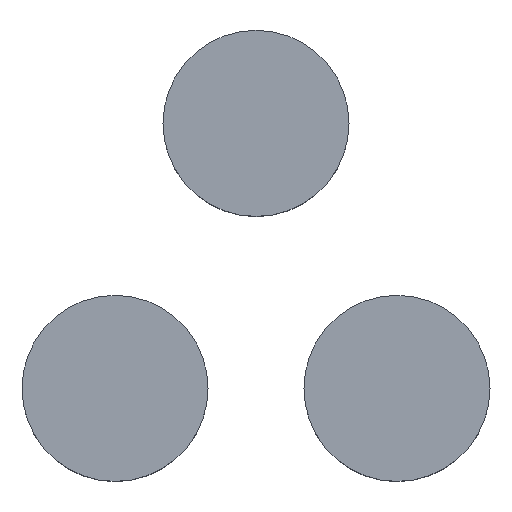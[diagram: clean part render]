
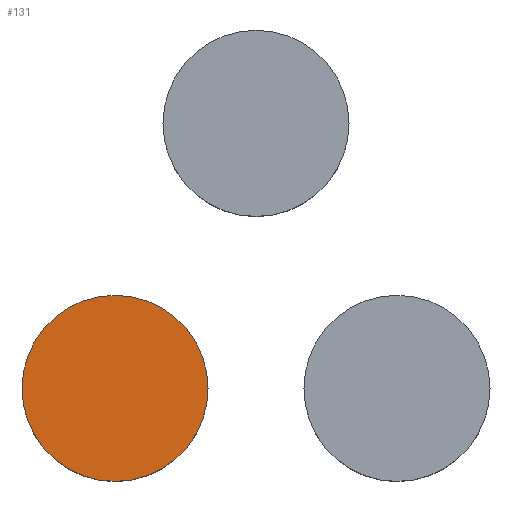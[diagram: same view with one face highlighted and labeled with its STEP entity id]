
A CAD part, top view. The second image highlights one B-rep face of the part: STEP entity #131.
In plain terms, the highlighted planar face has unit normal (0, 0, 1).
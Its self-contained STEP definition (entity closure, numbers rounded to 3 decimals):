
#47 = EDGE_CURVE('',#48,#48,#50,.T.);
#48 = VERTEX_POINT('',#49);
#49 = CARTESIAN_POINT('',(16.5,0.,11.));
#50 = SURFACE_CURVE('',#51,(#56,#68),.PCURVE_S1.);
#51 = CIRCLE('',#52,16.5);
#52 = AXIS2_PLACEMENT_3D('',#53,#54,#55);
#53 = CARTESIAN_POINT('',(0.,0.,11.));
#54 = DIRECTION('',(0.,0.,1.));
#55 = DIRECTION('',(1.,0.,-0.));
#56 = PCURVE('',#57,#62);
#57 = CYLINDRICAL_SURFACE('',#58,16.5);
#58 = AXIS2_PLACEMENT_3D('',#59,#60,#61);
#59 = CARTESIAN_POINT('',(0.,0.,-11.));
#60 = DIRECTION('',(0.,0.,1.));
#61 = DIRECTION('',(1.,0.,-0.));
#62 = DEFINITIONAL_REPRESENTATION('',(#63),#67);
#63 = LINE('',#64,#65);
#64 = CARTESIAN_POINT('',(0.,22.));
#65 = VECTOR('',#66,1.);
#66 = DIRECTION('',(1.,0.));
#67 = ( GEOMETRIC_REPRESENTATION_CONTEXT(2) 
PARAMETRIC_REPRESENTATION_CONTEXT() REPRESENTATION_CONTEXT('2D SPACE',''
  ) );
#68 = PCURVE('',#69,#74);
#69 = PLANE('',#70);
#70 = AXIS2_PLACEMENT_3D('',#71,#72,#73);
#71 = CARTESIAN_POINT('',(0.,0.,11.));
#72 = DIRECTION('',(0.,0.,1.));
#73 = DIRECTION('',(1.,0.,-0.));
#74 = DEFINITIONAL_REPRESENTATION('',(#75),#79);
#75 = CIRCLE('',#76,16.5);
#76 = AXIS2_PLACEMENT_2D('',#77,#78);
#77 = CARTESIAN_POINT('',(0.,0.));
#78 = DIRECTION('',(1.,0.));
#79 = ( GEOMETRIC_REPRESENTATION_CONTEXT(2) 
PARAMETRIC_REPRESENTATION_CONTEXT() REPRESENTATION_CONTEXT('2D SPACE',''
  ) );
#131 = ADVANCED_FACE('',(#132),#69,.T.);
#132 = FACE_BOUND('',#133,.T.);
#133 = EDGE_LOOP('',(#134));
#134 = ORIENTED_EDGE('',*,*,#47,.T.);
